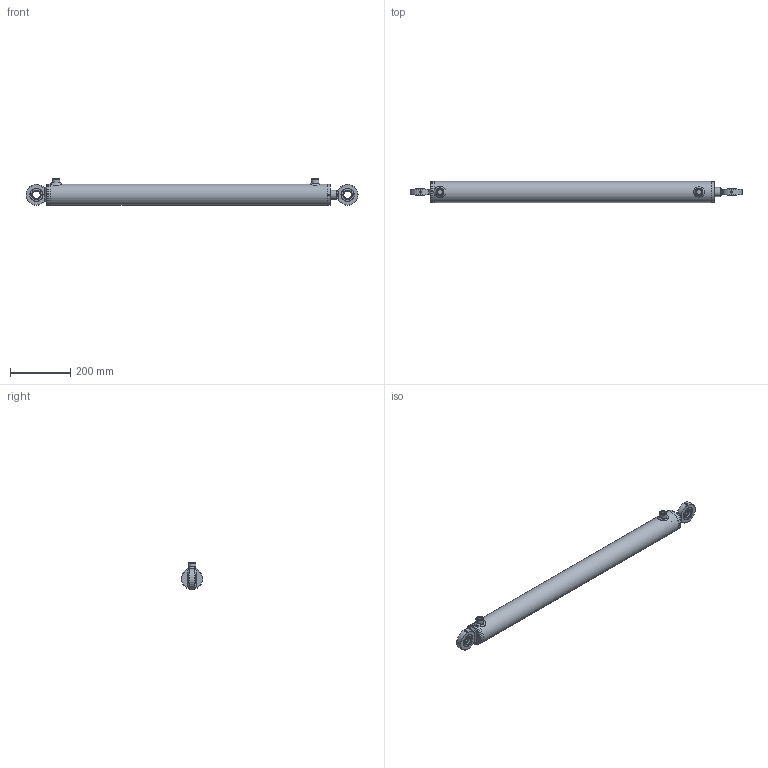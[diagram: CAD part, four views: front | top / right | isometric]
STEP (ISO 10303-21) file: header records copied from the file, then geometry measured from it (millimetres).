
FILE_DESCRIPTION( ( 'Unknown' ), '1' );
FILE_NAME( 'E:/LIBRERIA_3d/CILINDRI/HMC/HMC3300800.stp', 'Unknown', ( 'Unknown' ), ( 'Unknown' ), 'PSStep 17.0.49', 'Unknown', ' ' );
FILE_SCHEMA( ( 'AUTOMOTIVE_DESIGN { 1 0 10303 214 1 1 1 1 }' ) );
Length unit declared in the file: millimetre
Products named in the file (27): STL3500800-oa6; Saldatura d'angolo 1-oa4; FTM3500800-oa5; CBSC220600; CT00060020; CG07006030; HM03300800; Saldatura con preparazione 1-oa2; Saldatura d'angolo 1-oa3; CF00060070; CBS0600000; CDA0002015; APG0600000; SBL3030800; CAGEG06904225; CAGE069042; cge0250000; Assem1; Saldatura d'angolo 1-oa0; Saldatura d'angolo 2-oa1
Assembly tree (20 placements, depth 4):
  Saldatura d'angolo 1-oa4
  Saldatura d'angolo 1-oa4
  Saldatura d'angolo 1-oa3
  Saldatura d'angolo 1-oa3
  Assem1
    CAGEG06904225  x2
      CAGE069042
      cge0250000
    HM03300800
      Saldatura con preparazione 1-oa2
      Saldatura con preparazione 1-oa2
      CF00060070
      CBS0600000
      CDA0002015
      APG0600000  x2
      SBL3030800
      CG07006030
        CG07006030
      CT00060020
        CT00060020
      STL3500800-oa6
        FTM3500800-oa5
        CBSC220600
Bounding box: 1098 x 70 x 89 mm (x, y, z)
Volume: 1973598.4 mm3; surface area: 587576.5 mm2
Topology: 24 solids, 24 shells, 363 faces, 771 edges, 467 vertices
Faces by surface type: plane 108, bspline 92, cylinder 79, cone 42, torus 38, sphere 4
Full cylindrical faces by diameter (mm): 2 x4, 4.25 x1, 5 x4, 6 x2, 7 x2, 14.95 x2, 16 x2, 16.6 x2, 19.4 x1, 20 x5, 22 x2, 24.5 x1, 25 x4, 26 x2, 30 x5, 32 x1, 33 x1, 38.6 x1, 40 x3, 42 x6, 44 x1, 55 x1, 55.39 x2, 58.65 x2, 59.9 x1, 60 x1, 60.3 x1, 60.5 x1, 60.6 x1, 61 x1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
Entity records: 17671 total; most frequent: CARTESIAN_POINT 9389, DIRECTION 988, ORIENTED_EDGE 972, EDGE_LOOP 520, EDGE_CURVE 486, AXIS2_PLACEMENT_3D 452, FACE_OUTER_BOUND 427, VERTEX_POINT 361
